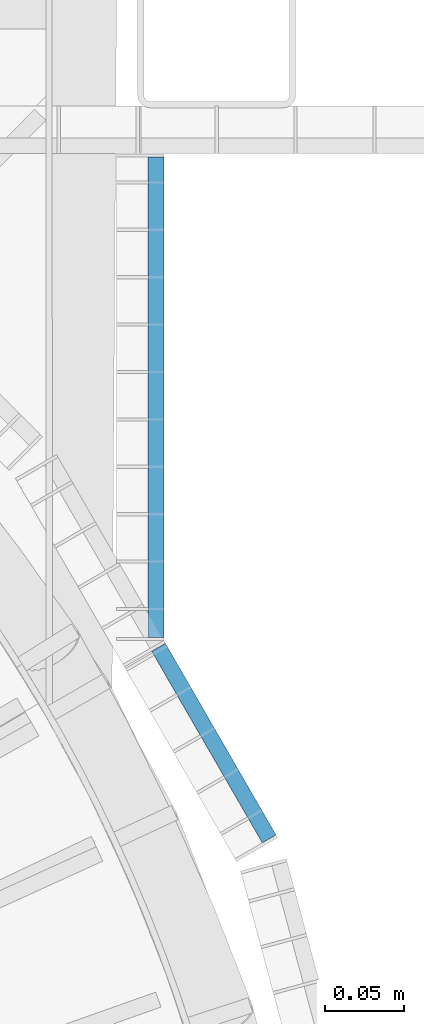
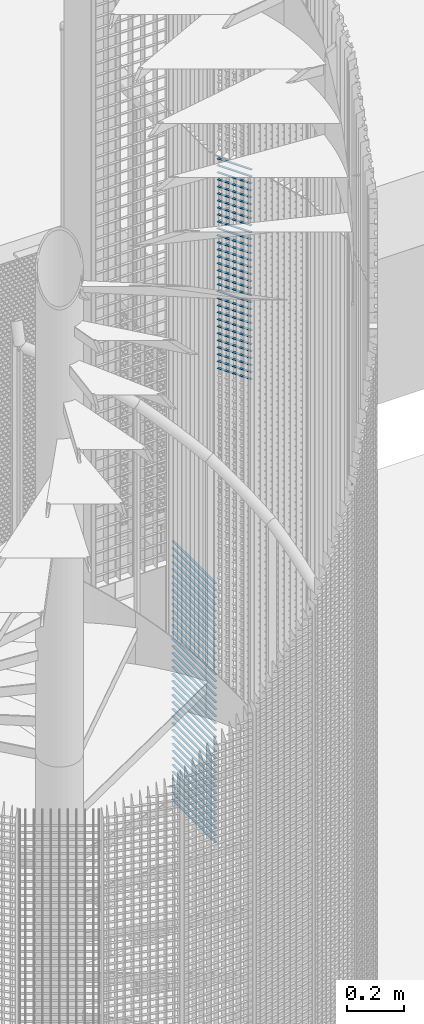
# One storey, part 274 of 1148: 69 beams, 2 elements without a shape of their own.
"""IFC2X3 building model written with IfcOpenShell, lengths in millimetres."""

from ifc_helpers import new_model, si_unit, frame, origin_with_axes, origin_2d_with_axis, place, context, subcontext, project, spatial, rectangle, extrude, material, type_object, element, aggregate, save


model = new_model("IFC2X3")

# Units and contexts
model_context = context("Model", 3, precision=1e-05, world=origin_with_axes())
body_context = subcontext(model_context, "Body", "Model", "MODEL_VIEW")
ifc_project = project(units=[si_unit("LENGTHUNIT", "METRE", prefix="MILLI"), si_unit("AREAUNIT", "SQUARE_METRE"), si_unit("VOLUMEUNIT", "CUBIC_METRE"), si_unit("MASSUNIT", "GRAM", prefix="KILO"), si_unit("TIMEUNIT", "SECOND"), si_unit("PLANEANGLEUNIT", "RADIAN"), si_unit("SOLIDANGLEUNIT", "STERADIAN"), si_unit("THERMODYNAMICTEMPERATUREUNIT", "DEGREE_CELSIUS"), si_unit("LUMINOUSINTENSITYUNIT", "LUMEN")], contexts=[model_context])

# Site, building, storey
site_placement = place(None, origin_with_axes())
site = spatial("IfcSite", under=ifc_project, at=site_placement, Name="Undefined", CompositionType="ELEMENT")
building_placement = place(site_placement, origin_with_axes())
building = spatial("IfcBuilding", under=site, at=building_placement, Name="Undefined", CompositionType="ELEMENT")
storey_placement = place(building_placement, origin_with_axes())
storey = spatial("IfcBuildingStorey", under=building, at=storey_placement, Name="Undefined", CompositionType="ELEMENT", Elevation=0.0)

# Assembly, beams
assembly_1_placement = place(storey_placement, origin_with_axes())
assembly_1 = element("IfcElementAssembly", 1, at=assembly_1_placement, inside=storey, Name="BORDURE", AssemblyPlace="NOTDEFINED", PredefinedType="NOTDEFINED")
ifc_material = material(Name="STEEL/S235JR")
beam_type = type_object("IfcBeamType", Name="PL2*10", PredefinedType="NOTDEFINED")
beam_1_placement = place(assembly_1_placement, frame((961.586915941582, 564.782669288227, 10140.0), z_axis=(1.0, 0.0, 0.0), x_axis=(0.0, 1.0, 0.0)))
beam_1 = element("IfcBeam", 2, at=beam_1_placement, type_object=beam_type, material=ifc_material, Name="ENTRETOISE", context=body_context, shape_type="SweptSolid", body=[
    extrude(rectangle(XDim=2.0, YDim=10.0, at=origin_2d_with_axis()), frame((303.999999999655, 0.0, 0.0), z_axis=(-1.0, 0.0, 0.0), x_axis=(0.0, -1.0, 0.0)), (0.0, 0.0, 1.0), 304.0),
])
beam_2_placement = place(assembly_1_placement, frame((961.586915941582, 564.782669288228, 9720.0), z_axis=(1.0, 0.0, 0.0), x_axis=(0.0, 1.0, 0.0)))
beam_2 = element("IfcBeam", 3, at=beam_2_placement, type_object=beam_type, material=ifc_material, Name="ENTRETOISE", context=body_context, shape_type="SweptSolid", body=[
    extrude(rectangle(XDim=2.0, YDim=10.0, at=origin_2d_with_axis()), frame((303.999999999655, 0.0, 0.0), z_axis=(-1.0, 0.0, 0.0), x_axis=(0.0, -1.0, 0.0)), (0.0, 0.0, 1.0), 304.0),
])
beam_3_placement = place(assembly_1_placement, frame((961.586915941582, 564.782669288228, 9690.0), z_axis=(1.0, 0.0, 0.0), x_axis=(0.0, 1.0, 0.0)))
beam_3 = element("IfcBeam", 4, at=beam_3_placement, type_object=beam_type, material=ifc_material, Name="ENTRETOISE", context=body_context, shape_type="SweptSolid", body=[
    extrude(rectangle(XDim=2.0, YDim=10.0, at=origin_2d_with_axis()), frame((303.999999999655, 0.0, 0.0), z_axis=(-1.0, 0.0, 0.0), x_axis=(0.0, -1.0, 0.0)), (0.0, 0.0, 1.0), 304.0),
])
beam_4_placement = place(assembly_1_placement, frame((961.586915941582, 564.782669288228, 9750.0), z_axis=(1.0, 0.0, 0.0), x_axis=(0.0, 1.0, 0.0)))
beam_4 = element("IfcBeam", 5, at=beam_4_placement, type_object=beam_type, material=ifc_material, Name="ENTRETOISE", context=body_context, shape_type="SweptSolid", body=[
    extrude(rectangle(XDim=2.0, YDim=10.0, at=origin_2d_with_axis()), frame((303.999999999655, 0.0, 0.0), z_axis=(-1.0, 0.0, 0.0), x_axis=(0.0, -1.0, 0.0)), (0.0, 0.0, 1.0), 304.0),
])
beam_5_placement = place(assembly_1_placement, frame((961.586915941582, 564.782669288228, 9660.0), z_axis=(1.0, 0.0, 0.0), x_axis=(0.0, 1.0, 0.0)))
beam_5 = element("IfcBeam", 6, at=beam_5_placement, type_object=beam_type, material=ifc_material, Name="ENTRETOISE", context=body_context, shape_type="SweptSolid", body=[
    extrude(rectangle(XDim=2.0, YDim=10.0, at=origin_2d_with_axis()), frame((303.999999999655, 0.0, 0.0), z_axis=(-1.0, 0.0, 0.0), x_axis=(0.0, -1.0, 0.0)), (0.0, 0.0, 1.0), 304.0),
])
beam_6_placement = place(assembly_1_placement, frame((961.586915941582, 564.782669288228, 9630.0), z_axis=(1.0, 0.0, 0.0), x_axis=(0.0, 1.0, 0.0)))
beam_6 = element("IfcBeam", 7, at=beam_6_placement, type_object=beam_type, material=ifc_material, Name="ENTRETOISE", context=body_context, shape_type="SweptSolid", body=[
    extrude(rectangle(XDim=2.0, YDim=10.0, at=origin_2d_with_axis()), frame((303.999999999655, 0.0, 0.0), z_axis=(-1.0, 0.0, 0.0), x_axis=(0.0, -1.0, 0.0)), (0.0, 0.0, 1.0), 304.0),
])
beam_7_placement = place(assembly_1_placement, frame((961.586915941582, 564.782669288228, 9780.0), z_axis=(1.0, 0.0, 0.0), x_axis=(0.0, 1.0, 0.0)))
beam_7 = element("IfcBeam", 8, at=beam_7_placement, type_object=beam_type, material=ifc_material, Name="ENTRETOISE", context=body_context, shape_type="SweptSolid", body=[
    extrude(rectangle(XDim=2.0, YDim=10.0, at=origin_2d_with_axis()), frame((303.999999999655, 0.0, 0.0), z_axis=(-1.0, 0.0, 0.0), x_axis=(0.0, -1.0, 0.0)), (0.0, 0.0, 1.0), 304.0),
])
beam_8_placement = place(assembly_1_placement, frame((961.586915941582, 564.782669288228, 9600.0), z_axis=(1.0, 0.0, 0.0), x_axis=(0.0, 1.0, 0.0)))
beam_8 = element("IfcBeam", 9, at=beam_8_placement, type_object=beam_type, material=ifc_material, Name="ENTRETOISE", context=body_context, shape_type="SweptSolid", body=[
    extrude(rectangle(XDim=2.0, YDim=10.0, at=origin_2d_with_axis()), frame((303.999999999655, 0.0, 0.0), z_axis=(-1.0, 0.0, 0.0), x_axis=(0.0, -1.0, 0.0)), (0.0, 0.0, 1.0), 304.0),
])
beam_9_placement = place(assembly_1_placement, frame((961.586915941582, 564.782669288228, 9810.0), z_axis=(1.0, 0.0, 0.0), x_axis=(0.0, 1.0, 0.0)))
beam_9 = element("IfcBeam", 10, at=beam_9_placement, type_object=beam_type, material=ifc_material, Name="ENTRETOISE", context=body_context, shape_type="SweptSolid", body=[
    extrude(rectangle(XDim=2.0, YDim=10.0, at=origin_2d_with_axis()), frame((303.999999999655, 0.0, 0.0), z_axis=(-1.0, 0.0, 0.0), x_axis=(0.0, -1.0, 0.0)), (0.0, 0.0, 1.0), 304.0),
])
beam_10_placement = place(assembly_1_placement, frame((961.586915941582, 564.782669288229, 9570.0), z_axis=(1.0, 0.0, 0.0), x_axis=(0.0, 1.0, 0.0)))
beam_10 = element("IfcBeam", 11, at=beam_10_placement, type_object=beam_type, material=ifc_material, Name="ENTRETOISE", context=body_context, shape_type="SweptSolid", body=[
    extrude(rectangle(XDim=2.0, YDim=10.0, at=origin_2d_with_axis()), frame((303.999999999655, 0.0, 0.0), z_axis=(-1.0, 0.0, 0.0), x_axis=(0.0, -1.0, 0.0)), (0.0, 0.0, 1.0), 304.0),
])
beam_11_placement = place(assembly_1_placement, frame((961.586915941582, 564.782669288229, 9540.0), z_axis=(1.0, 0.0, 0.0), x_axis=(0.0, 1.0, 0.0)))
beam_11 = element("IfcBeam", 12, at=beam_11_placement, type_object=beam_type, material=ifc_material, Name="ENTRETOISE", context=body_context, shape_type="SweptSolid", body=[
    extrude(rectangle(XDim=2.0, YDim=10.0, at=origin_2d_with_axis()), frame((303.999999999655, 0.0, 0.0), z_axis=(-1.0, 0.0, 0.0), x_axis=(0.0, -1.0, 0.0)), (0.0, 0.0, 1.0), 304.0),
])
beam_12_placement = place(assembly_1_placement, frame((961.586915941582, 564.782669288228, 9840.0), z_axis=(1.0, 0.0, 0.0), x_axis=(0.0, 1.0, 0.0)))
beam_12 = element("IfcBeam", 13, at=beam_12_placement, type_object=beam_type, material=ifc_material, Name="ENTRETOISE", context=body_context, shape_type="SweptSolid", body=[
    extrude(rectangle(XDim=2.0, YDim=10.0, at=origin_2d_with_axis()), frame((303.999999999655, 0.0, 0.0), z_axis=(-1.0, 0.0, 0.0), x_axis=(0.0, -1.0, 0.0)), (0.0, 0.0, 1.0), 304.0),
])
beam_13_placement = place(assembly_1_placement, frame((961.586915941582, 564.782669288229, 9510.0), z_axis=(1.0, 0.0, 0.0), x_axis=(0.0, 1.0, 0.0)))
beam_13 = element("IfcBeam", 14, at=beam_13_placement, type_object=beam_type, material=ifc_material, Name="ENTRETOISE", context=body_context, shape_type="SweptSolid", body=[
    extrude(rectangle(XDim=2.0, YDim=10.0, at=origin_2d_with_axis()), frame((303.999999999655, 0.0, 0.0), z_axis=(-1.0, 0.0, 0.0), x_axis=(0.0, -1.0, 0.0)), (0.0, 0.0, 1.0), 304.0),
])
beam_14_placement = place(assembly_1_placement, frame((961.586915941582, 564.782669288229, 9480.0), z_axis=(1.0, 0.0, 0.0), x_axis=(0.0, 1.0, 0.0)))
beam_14 = element("IfcBeam", 15, at=beam_14_placement, type_object=beam_type, material=ifc_material, Name="ENTRETOISE", context=body_context, shape_type="SweptSolid", body=[
    extrude(rectangle(XDim=2.0, YDim=10.0, at=origin_2d_with_axis()), frame((303.999999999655, 0.0, 0.0), z_axis=(-1.0, 0.0, 0.0), x_axis=(0.0, -1.0, 0.0)), (0.0, 0.0, 1.0), 304.0),
])
beam_15_placement = place(assembly_1_placement, frame((961.586915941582, 564.782669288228, 9870.0), z_axis=(1.0, 0.0, 0.0), x_axis=(0.0, 1.0, 0.0)))
beam_15 = element("IfcBeam", 16, at=beam_15_placement, type_object=beam_type, material=ifc_material, Name="ENTRETOISE", context=body_context, shape_type="SweptSolid", body=[
    extrude(rectangle(XDim=2.0, YDim=10.0, at=origin_2d_with_axis()), frame((303.999999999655, 0.0, 0.0), z_axis=(-1.0, 0.0, 0.0), x_axis=(0.0, -1.0, 0.0)), (0.0, 0.0, 1.0), 304.0),
])
beam_16_placement = place(assembly_1_placement, frame((961.586915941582, 564.782669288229, 9450.0), z_axis=(1.0, 0.0, 0.0), x_axis=(0.0, 1.0, 0.0)))
beam_16 = element("IfcBeam", 17, at=beam_16_placement, type_object=beam_type, material=ifc_material, Name="ENTRETOISE", context=body_context, shape_type="SweptSolid", body=[
    extrude(rectangle(XDim=2.0, YDim=10.0, at=origin_2d_with_axis()), frame((303.999999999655, 0.0, 0.0), z_axis=(-1.0, 0.0, 0.0), x_axis=(0.0, -1.0, 0.0)), (0.0, 0.0, 1.0), 304.0),
])
beam_17_placement = place(assembly_1_placement, frame((961.586915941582, 564.782669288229, 9420.0), z_axis=(1.0, 0.0, 0.0), x_axis=(0.0, 1.0, 0.0)))
beam_17 = element("IfcBeam", 18, at=beam_17_placement, type_object=beam_type, material=ifc_material, Name="ENTRETOISE", context=body_context, shape_type="SweptSolid", body=[
    extrude(rectangle(XDim=2.0, YDim=10.0, at=origin_2d_with_axis()), frame((303.999999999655, 0.0, 0.0), z_axis=(-1.0, 0.0, 0.0), x_axis=(0.0, -1.0, 0.0)), (0.0, 0.0, 1.0), 304.0),
])
beam_18_placement = place(assembly_1_placement, frame((961.586915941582, 564.782669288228, 9900.0), z_axis=(1.0, 0.0, 0.0), x_axis=(0.0, 1.0, 0.0)))
beam_18 = element("IfcBeam", 19, at=beam_18_placement, type_object=beam_type, material=ifc_material, Name="ENTRETOISE", context=body_context, shape_type="SweptSolid", body=[
    extrude(rectangle(XDim=2.0, YDim=10.0, at=origin_2d_with_axis()), frame((303.999999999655, 0.0, 0.0), z_axis=(-1.0, 0.0, 0.0), x_axis=(0.0, -1.0, 0.0)), (0.0, 0.0, 1.0), 304.0),
])
beam_19_placement = place(assembly_1_placement, frame((961.586915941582, 564.782669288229, 9390.0), z_axis=(1.0, 0.0, 0.0), x_axis=(0.0, 1.0, 0.0)))
beam_19 = element("IfcBeam", 20, at=beam_19_placement, type_object=beam_type, material=ifc_material, Name="ENTRETOISE", context=body_context, shape_type="SweptSolid", body=[
    extrude(rectangle(XDim=2.0, YDim=10.0, at=origin_2d_with_axis()), frame((303.999999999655, 0.0, 0.0), z_axis=(-1.0, 0.0, 0.0), x_axis=(0.0, -1.0, 0.0)), (0.0, 0.0, 1.0), 304.0),
])
beam_20_placement = place(assembly_1_placement, frame((961.586915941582, 564.782669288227, 9930.0), z_axis=(1.0, 0.0, 0.0), x_axis=(0.0, 1.0, 0.0)))
beam_20 = element("IfcBeam", 21, at=beam_20_placement, type_object=beam_type, material=ifc_material, Name="ENTRETOISE", context=body_context, shape_type="SweptSolid", body=[
    extrude(rectangle(XDim=2.0, YDim=10.0, at=origin_2d_with_axis()), frame((303.999999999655, 0.0, 0.0), z_axis=(-1.0, 0.0, 0.0), x_axis=(0.0, -1.0, 0.0)), (0.0, 0.0, 1.0), 304.0),
])
beam_21_placement = place(assembly_1_placement, frame((961.586915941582, 564.782669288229, 9360.0), z_axis=(1.0, 0.0, 0.0), x_axis=(0.0, 1.0, 0.0)))
beam_21 = element("IfcBeam", 22, at=beam_21_placement, type_object=beam_type, material=ifc_material, Name="ENTRETOISE", context=body_context, shape_type="SweptSolid", body=[
    extrude(rectangle(XDim=2.0, YDim=10.0, at=origin_2d_with_axis()), frame((303.999999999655, 0.0, 0.0), z_axis=(-1.0, 0.0, 0.0), x_axis=(0.0, -1.0, 0.0)), (0.0, 0.0, 1.0), 304.0),
])
beam_22_placement = place(assembly_1_placement, frame((961.586915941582, 564.782669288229, 9330.0), z_axis=(1.0, 0.0, 0.0), x_axis=(0.0, 1.0, 0.0)))
beam_22 = element("IfcBeam", 23, at=beam_22_placement, type_object=beam_type, material=ifc_material, Name="ENTRETOISE", context=body_context, shape_type="SweptSolid", body=[
    extrude(rectangle(XDim=2.0, YDim=10.0, at=origin_2d_with_axis()), frame((303.999999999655, 0.0, 0.0), z_axis=(-1.0, 0.0, 0.0), x_axis=(0.0, -1.0, 0.0)), (0.0, 0.0, 1.0), 304.0),
])
beam_23_placement = place(assembly_1_placement, frame((961.586915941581, 564.782669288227, 9960.0), z_axis=(1.0, 0.0, 0.0), x_axis=(0.0, 1.0, 0.0)))
beam_23 = element("IfcBeam", 24, at=beam_23_placement, type_object=beam_type, material=ifc_material, Name="ENTRETOISE", context=body_context, shape_type="SweptSolid", body=[
    extrude(rectangle(XDim=2.0, YDim=10.0, at=origin_2d_with_axis()), frame((303.999999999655, 0.0, 0.0), z_axis=(-1.0, 0.0, 0.0), x_axis=(0.0, -1.0, 0.0)), (0.0, 0.0, 1.0), 304.0),
])
beam_24_placement = place(assembly_1_placement, frame((961.586915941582, 564.782669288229, 9300.0), z_axis=(1.0, 0.0, 0.0), x_axis=(0.0, 1.0, 0.0)))
beam_24 = element("IfcBeam", 25, at=beam_24_placement, type_object=beam_type, material=ifc_material, Name="ENTRETOISE", context=body_context, shape_type="SweptSolid", body=[
    extrude(rectangle(XDim=2.0, YDim=10.0, at=origin_2d_with_axis()), frame((303.999999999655, 0.0, 0.0), z_axis=(-1.0, 0.0, 0.0), x_axis=(0.0, -1.0, 0.0)), (0.0, 0.0, 1.0), 304.0),
])
beam_25_placement = place(assembly_1_placement, frame((961.586915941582, 564.78266928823, 9270.0), z_axis=(1.0, 0.0, 0.0), x_axis=(0.0, 1.0, 0.0)))
beam_25 = element("IfcBeam", 26, at=beam_25_placement, type_object=beam_type, material=ifc_material, Name="ENTRETOISE", context=body_context, shape_type="SweptSolid", body=[
    extrude(rectangle(XDim=2.0, YDim=10.0, at=origin_2d_with_axis()), frame((303.999999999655, 0.0, 0.0), z_axis=(-1.0, 0.0, 0.0), x_axis=(0.0, -1.0, 0.0)), (0.0, 0.0, 1.0), 304.0),
])
beam_26_placement = place(assembly_1_placement, frame((961.586915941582, 564.782669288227, 9990.0), z_axis=(1.0, 0.0, 0.0), x_axis=(0.0, 1.0, 0.0)))
beam_26 = element("IfcBeam", 27, at=beam_26_placement, type_object=beam_type, material=ifc_material, Name="ENTRETOISE", context=body_context, shape_type="SweptSolid", body=[
    extrude(rectangle(XDim=2.0, YDim=10.0, at=origin_2d_with_axis()), frame((303.999999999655, 0.0, 0.0), z_axis=(-1.0, 0.0, 0.0), x_axis=(0.0, -1.0, 0.0)), (0.0, 0.0, 1.0), 304.0),
])
beam_27_placement = place(assembly_1_placement, frame((961.586915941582, 564.78266928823, 9240.0), z_axis=(1.0, 0.0, 0.0), x_axis=(0.0, 1.0, 0.0)))
beam_27 = element("IfcBeam", 28, at=beam_27_placement, type_object=beam_type, material=ifc_material, Name="ENTRETOISE", context=body_context, shape_type="SweptSolid", body=[
    extrude(rectangle(XDim=2.0, YDim=10.0, at=origin_2d_with_axis()), frame((303.999999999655, 0.0, 0.0), z_axis=(-1.0, 0.0, 0.0), x_axis=(0.0, -1.0, 0.0)), (0.0, 0.0, 1.0), 304.0),
])
beam_28_placement = place(assembly_1_placement, frame((961.586915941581, 564.782669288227, 10020.0), z_axis=(1.0, 0.0, 0.0), x_axis=(0.0, 1.0, 0.0)))
beam_28 = element("IfcBeam", 29, at=beam_28_placement, type_object=beam_type, material=ifc_material, Name="ENTRETOISE", context=body_context, shape_type="SweptSolid", body=[
    extrude(rectangle(XDim=2.0, YDim=10.0, at=origin_2d_with_axis()), frame((303.999999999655, 0.0, 0.0), z_axis=(-1.0, 0.0, 0.0), x_axis=(0.0, -1.0, 0.0)), (0.0, 0.0, 1.0), 304.0),
])
beam_29_placement = place(assembly_1_placement, frame((961.586915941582, 564.78266928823, 9210.0), z_axis=(1.0, 0.0, 0.0), x_axis=(0.0, 1.0, 0.0)))
beam_29 = element("IfcBeam", 30, at=beam_29_placement, type_object=beam_type, material=ifc_material, Name="ENTRETOISE", context=body_context, shape_type="SweptSolid", body=[
    extrude(rectangle(XDim=2.0, YDim=10.0, at=origin_2d_with_axis()), frame((303.999999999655, 0.0, 0.0), z_axis=(-1.0, 0.0, 0.0), x_axis=(0.0, -1.0, 0.0)), (0.0, 0.0, 1.0), 304.0),
])
beam_30_placement = place(assembly_1_placement, frame((961.586915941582, 564.78266928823, 9180.0), z_axis=(1.0, 0.0, 0.0), x_axis=(0.0, 1.0, 0.0)))
beam_30 = element("IfcBeam", 31, at=beam_30_placement, type_object=beam_type, material=ifc_material, Name="ENTRETOISE", context=body_context, shape_type="SweptSolid", body=[
    extrude(rectangle(XDim=2.0, YDim=10.0, at=origin_2d_with_axis()), frame((303.999999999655, 0.0, 0.0), z_axis=(-1.0, 0.0, 0.0), x_axis=(0.0, -1.0, 0.0)), (0.0, 0.0, 1.0), 304.0),
])
beam_31_placement = place(assembly_1_placement, frame((961.586915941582, 564.782669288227, 10050.0), z_axis=(1.0, 0.0, 0.0), x_axis=(0.0, 1.0, 0.0)))
beam_31 = element("IfcBeam", 32, at=beam_31_placement, type_object=beam_type, material=ifc_material, Name="ENTRETOISE", context=body_context, shape_type="SweptSolid", body=[
    extrude(rectangle(XDim=2.0, YDim=10.0, at=origin_2d_with_axis()), frame((303.999999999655, 0.0, 0.0), z_axis=(-1.0, 0.0, 0.0), x_axis=(0.0, -1.0, 0.0)), (0.0, 0.0, 1.0), 304.0),
])
beam_32_placement = place(assembly_1_placement, frame((961.586915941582, 564.78266928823, 9150.0), z_axis=(1.0, 0.0, 0.0), x_axis=(0.0, 1.0, 0.0)))
beam_32 = element("IfcBeam", 33, at=beam_32_placement, type_object=beam_type, material=ifc_material, Name="ENTRETOISE", context=body_context, shape_type="SweptSolid", body=[
    extrude(rectangle(XDim=2.0, YDim=10.0, at=origin_2d_with_axis()), frame((303.999999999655, 0.0, 0.0), z_axis=(-1.0, 0.0, 0.0), x_axis=(0.0, -1.0, 0.0)), (0.0, 0.0, 1.0), 304.0),
])
beam_33_placement = place(assembly_1_placement, frame((961.586915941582, 564.78266928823, 9120.0), z_axis=(1.0, 0.0, 0.0), x_axis=(0.0, 1.0, 0.0)))
beam_33 = element("IfcBeam", 34, at=beam_33_placement, type_object=beam_type, material=ifc_material, Name="ENTRETOISE", context=body_context, shape_type="SweptSolid", body=[
    extrude(rectangle(XDim=2.0, YDim=10.0, at=origin_2d_with_axis()), frame((303.999999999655, 0.0, 0.0), z_axis=(-1.0, 0.0, 0.0), x_axis=(0.0, -1.0, 0.0)), (0.0, 0.0, 1.0), 304.0),
])
beam_34_placement = place(assembly_1_placement, frame((961.586915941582, 564.782669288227, 10080.0), z_axis=(1.0, 0.0, 0.0), x_axis=(0.0, 1.0, 0.0)))
beam_34 = element("IfcBeam", 35, at=beam_34_placement, type_object=beam_type, material=ifc_material, Name="ENTRETOISE", context=body_context, shape_type="SweptSolid", body=[
    extrude(rectangle(XDim=2.0, YDim=10.0, at=origin_2d_with_axis()), frame((303.999999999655, 0.0, 0.0), z_axis=(-1.0, 0.0, 0.0), x_axis=(0.0, -1.0, 0.0)), (0.0, 0.0, 1.0), 304.0),
])
beam_35_placement = place(assembly_1_placement, frame((961.586915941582, 564.78266928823, 9090.0), z_axis=(1.0, 0.0, 0.0), x_axis=(0.0, 1.0, 0.0)))
beam_35 = element("IfcBeam", 36, at=beam_35_placement, type_object=beam_type, material=ifc_material, Name="ENTRETOISE", context=body_context, shape_type="SweptSolid", body=[
    extrude(rectangle(XDim=2.0, YDim=10.0, at=origin_2d_with_axis()), frame((303.999999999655, 0.0, 0.0), z_axis=(-1.0, 0.0, 0.0), x_axis=(0.0, -1.0, 0.0)), (0.0, 0.0, 1.0), 304.0),
])
beam_36_placement = place(assembly_1_placement, frame((961.586915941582, 564.78266928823, 9060.0), z_axis=(1.0, 0.0, 0.0), x_axis=(0.0, 1.0, 0.0)))
beam_36 = element("IfcBeam", 37, at=beam_36_placement, type_object=beam_type, material=ifc_material, Name="ENTRETOISE", context=body_context, shape_type="SweptSolid", body=[
    extrude(rectangle(XDim=2.0, YDim=10.0, at=origin_2d_with_axis()), frame((303.999999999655, 0.0, 0.0), z_axis=(-1.0, 0.0, 0.0), x_axis=(0.0, -1.0, 0.0)), (0.0, 0.0, 1.0), 304.0),
])
beam_37_placement = place(assembly_1_placement, frame((961.586915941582, 564.782669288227, 10110.0), z_axis=(1.0, 0.0, 0.0), x_axis=(0.0, 1.0, 0.0)))
beam_37 = element("IfcBeam", 38, at=beam_37_placement, type_object=beam_type, material=ifc_material, Name="ENTRETOISE", context=body_context, shape_type="SweptSolid", body=[
    extrude(rectangle(XDim=2.0, YDim=10.0, at=origin_2d_with_axis()), frame((303.999999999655, 0.0, 0.0), z_axis=(-1.0, 0.0, 0.0), x_axis=(0.0, -1.0, 0.0)), (0.0, 0.0, 1.0), 304.0),
])
beam_38_placement = place(assembly_1_placement, frame((961.586915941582, 564.782669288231, 9030.0), z_axis=(1.0, 0.0, 0.0), x_axis=(0.0, 1.0, 0.0)))
beam_38 = element("IfcBeam", 39, at=beam_38_placement, type_object=beam_type, material=ifc_material, Name="ENTRETOISE", context=body_context, shape_type="SweptSolid", body=[
    extrude(rectangle(XDim=2.0, YDim=10.0, at=origin_2d_with_axis()), frame((303.999999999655, 0.0, 0.0), z_axis=(-1.0, 0.0, 0.0), x_axis=(0.0, -1.0, 0.0)), (0.0, 0.0, 1.0), 304.0),
])
aggregate(assembly_1, [beam_1, beam_2, beam_3, beam_4, beam_5, beam_6, beam_7, beam_8, beam_9, beam_10, beam_11, beam_12, beam_13, beam_14, beam_15, beam_16, beam_17, beam_18, beam_19, beam_20, beam_21, beam_22, beam_23, beam_24, beam_25, beam_26, beam_27, beam_28, beam_29, beam_30, beam_31, beam_32, beam_33, beam_34, beam_35, beam_36, beam_37, beam_38])

assembly_2_placement = place(storey_placement, origin_with_axes())
assembly_2 = element("IfcElementAssembly", 40, at=assembly_2_placement, inside=storey, Name="BORDURE", AssemblyPlace="NOTDEFINED", PredefinedType="NOTDEFINED")
beam_39_placement = place(assembly_2_placement, frame((1033.29994283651, 437.231999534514, 11970.0), z_axis=(0.866030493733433, 0.499991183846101, 0.0), x_axis=(-0.499991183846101, 0.866030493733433, 0.0)))
beam_39 = element("IfcBeam", 41, at=beam_39_placement, type_object=beam_type, material=ifc_material, Name="ENTRETOISE", context=body_context, shape_type="SweptSolid", body=[
    extrude(rectangle(XDim=2.0, YDim=10.0, at=origin_2d_with_axis()), frame((140.102470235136, 0.0, 0.0), z_axis=(-1.0, 0.0, 0.0), x_axis=(0.0, -1.0, 0.0)), (0.0, 0.0, 1.0), 140.1),
])
beam_40_placement = place(assembly_2_placement, frame((1033.29994283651, 437.231999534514, 11940.0), z_axis=(0.866030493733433, 0.499991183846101, 0.0), x_axis=(-0.499991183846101, 0.866030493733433, 0.0)))
beam_40 = element("IfcBeam", 42, at=beam_40_placement, type_object=beam_type, material=ifc_material, Name="ENTRETOISE", context=body_context, shape_type="SweptSolid", body=[
    extrude(rectangle(XDim=2.0, YDim=10.0, at=origin_2d_with_axis()), frame((140.102470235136, 0.0, 0.0), z_axis=(-1.0, 0.0, 0.0), x_axis=(0.0, -1.0, 0.0)), (0.0, 0.0, 1.0), 140.1),
])
beam_41_placement = place(assembly_2_placement, frame((1033.29994283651, 437.231999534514, 11910.0), z_axis=(0.866030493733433, 0.499991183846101, 0.0), x_axis=(-0.499991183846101, 0.866030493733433, 0.0)))
beam_41 = element("IfcBeam", 43, at=beam_41_placement, type_object=beam_type, material=ifc_material, Name="ENTRETOISE", context=body_context, shape_type="SweptSolid", body=[
    extrude(rectangle(XDim=2.0, YDim=10.0, at=origin_2d_with_axis()), frame((140.102470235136, 0.0, 0.0), z_axis=(-1.0, 0.0, 0.0), x_axis=(0.0, -1.0, 0.0)), (0.0, 0.0, 1.0), 140.1),
])
beam_42_placement = place(assembly_2_placement, frame((1033.29994283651, 437.231999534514, 11880.0), z_axis=(0.866030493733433, 0.499991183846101, 0.0), x_axis=(-0.499991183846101, 0.866030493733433, 0.0)))
beam_42 = element("IfcBeam", 44, at=beam_42_placement, type_object=beam_type, material=ifc_material, Name="ENTRETOISE", context=body_context, shape_type="SweptSolid", body=[
    extrude(rectangle(XDim=2.0, YDim=10.0, at=origin_2d_with_axis()), frame((140.102470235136, 0.0, 0.0), z_axis=(-1.0, 0.0, 0.0), x_axis=(0.0, -1.0, 0.0)), (0.0, 0.0, 1.0), 140.1),
])
beam_43_placement = place(assembly_2_placement, frame((1033.29994283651, 437.231999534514, 11850.0), z_axis=(0.866030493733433, 0.499991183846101, 0.0), x_axis=(-0.499991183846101, 0.866030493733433, 0.0)))
beam_43 = element("IfcBeam", 45, at=beam_43_placement, type_object=beam_type, material=ifc_material, Name="ENTRETOISE", context=body_context, shape_type="SweptSolid", body=[
    extrude(rectangle(XDim=2.0, YDim=10.0, at=origin_2d_with_axis()), frame((140.102470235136, 0.0, 0.0), z_axis=(-1.0, 0.0, 0.0), x_axis=(0.0, -1.0, 0.0)), (0.0, 0.0, 1.0), 140.1),
])
beam_44_placement = place(assembly_2_placement, frame((1033.29994283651, 437.231999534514, 11820.0), z_axis=(0.866030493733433, 0.499991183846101, 0.0), x_axis=(-0.499991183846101, 0.866030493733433, 0.0)))
beam_44 = element("IfcBeam", 46, at=beam_44_placement, type_object=beam_type, material=ifc_material, Name="ENTRETOISE", context=body_context, shape_type="SweptSolid", body=[
    extrude(rectangle(XDim=2.0, YDim=10.0, at=origin_2d_with_axis()), frame((140.102470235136, 0.0, 0.0), z_axis=(-1.0, 0.0, 0.0), x_axis=(0.0, -1.0, 0.0)), (0.0, 0.0, 1.0), 140.1),
])
beam_45_placement = place(assembly_2_placement, frame((1033.29994283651, 437.231999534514, 11790.0), z_axis=(0.866030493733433, 0.499991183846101, 0.0), x_axis=(-0.499991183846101, 0.866030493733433, 0.0)))
beam_45 = element("IfcBeam", 47, at=beam_45_placement, type_object=beam_type, material=ifc_material, Name="ENTRETOISE", context=body_context, shape_type="SweptSolid", body=[
    extrude(rectangle(XDim=2.0, YDim=10.0, at=origin_2d_with_axis()), frame((140.102470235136, 0.0, 0.0), z_axis=(-1.0, 0.0, 0.0), x_axis=(0.0, -1.0, 0.0)), (0.0, 0.0, 1.0), 140.1),
])
beam_46_placement = place(assembly_2_placement, frame((1033.29994283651, 437.231999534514, 11760.0), z_axis=(0.866030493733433, 0.499991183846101, 0.0), x_axis=(-0.499991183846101, 0.866030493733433, 0.0)))
beam_46 = element("IfcBeam", 48, at=beam_46_placement, type_object=beam_type, material=ifc_material, Name="ENTRETOISE", context=body_context, shape_type="SweptSolid", body=[
    extrude(rectangle(XDim=2.0, YDim=10.0, at=origin_2d_with_axis()), frame((140.102470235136, 0.0, 0.0), z_axis=(-1.0, 0.0, 0.0), x_axis=(0.0, -1.0, 0.0)), (0.0, 0.0, 1.0), 140.1),
])
beam_47_placement = place(assembly_2_placement, frame((1033.29994283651, 437.231999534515, 11730.0), z_axis=(0.866030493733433, 0.499991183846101, 0.0), x_axis=(-0.499991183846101, 0.866030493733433, 0.0)))
beam_47 = element("IfcBeam", 49, at=beam_47_placement, type_object=beam_type, material=ifc_material, Name="ENTRETOISE", context=body_context, shape_type="SweptSolid", body=[
    extrude(rectangle(XDim=2.0, YDim=10.0, at=origin_2d_with_axis()), frame((140.102470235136, 0.0, 0.0), z_axis=(-1.0, 0.0, 0.0), x_axis=(0.0, -1.0, 0.0)), (0.0, 0.0, 1.0), 140.1),
])
beam_48_placement = place(assembly_2_placement, frame((1033.29994283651, 437.231999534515, 11700.0), z_axis=(0.866030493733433, 0.499991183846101, 0.0), x_axis=(-0.499991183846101, 0.866030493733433, 0.0)))
beam_48 = element("IfcBeam", 50, at=beam_48_placement, type_object=beam_type, material=ifc_material, Name="ENTRETOISE", context=body_context, shape_type="SweptSolid", body=[
    extrude(rectangle(XDim=2.0, YDim=10.0, at=origin_2d_with_axis()), frame((140.102470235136, 0.0, 0.0), z_axis=(-1.0, 0.0, 0.0), x_axis=(0.0, -1.0, 0.0)), (0.0, 0.0, 1.0), 140.1),
])
beam_49_placement = place(assembly_2_placement, frame((1033.29994283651, 437.231999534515, 11670.0), z_axis=(0.866030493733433, 0.499991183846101, 0.0), x_axis=(-0.499991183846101, 0.866030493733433, 0.0)))
beam_49 = element("IfcBeam", 51, at=beam_49_placement, type_object=beam_type, material=ifc_material, Name="ENTRETOISE", context=body_context, shape_type="SweptSolid", body=[
    extrude(rectangle(XDim=2.0, YDim=10.0, at=origin_2d_with_axis()), frame((140.102470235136, 0.0, 0.0), z_axis=(-1.0, 0.0, 0.0), x_axis=(0.0, -1.0, 0.0)), (0.0, 0.0, 1.0), 140.1),
])
beam_50_placement = place(assembly_2_placement, frame((1033.29994283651, 437.231999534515, 11640.0), z_axis=(0.866030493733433, 0.499991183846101, 0.0), x_axis=(-0.499991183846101, 0.866030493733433, 0.0)))
beam_50 = element("IfcBeam", 52, at=beam_50_placement, type_object=beam_type, material=ifc_material, Name="ENTRETOISE", context=body_context, shape_type="SweptSolid", body=[
    extrude(rectangle(XDim=2.0, YDim=10.0, at=origin_2d_with_axis()), frame((140.102470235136, 0.0, 0.0), z_axis=(-1.0, 0.0, 0.0), x_axis=(0.0, -1.0, 0.0)), (0.0, 0.0, 1.0), 140.1),
])
beam_51_placement = place(assembly_2_placement, frame((1033.29994283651, 437.231999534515, 11610.0), z_axis=(0.866030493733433, 0.499991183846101, 0.0), x_axis=(-0.499991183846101, 0.866030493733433, 0.0)))
beam_51 = element("IfcBeam", 53, at=beam_51_placement, type_object=beam_type, material=ifc_material, Name="ENTRETOISE", context=body_context, shape_type="SweptSolid", body=[
    extrude(rectangle(XDim=2.0, YDim=10.0, at=origin_2d_with_axis()), frame((140.102470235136, 0.0, 0.0), z_axis=(-1.0, 0.0, 0.0), x_axis=(0.0, -1.0, 0.0)), (0.0, 0.0, 1.0), 140.1),
])
beam_52_placement = place(assembly_2_placement, frame((1033.29994283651, 437.231999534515, 11580.0), z_axis=(0.866030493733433, 0.499991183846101, 0.0), x_axis=(-0.499991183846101, 0.866030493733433, 0.0)))
beam_52 = element("IfcBeam", 54, at=beam_52_placement, type_object=beam_type, material=ifc_material, Name="ENTRETOISE", context=body_context, shape_type="SweptSolid", body=[
    extrude(rectangle(XDim=2.0, YDim=10.0, at=origin_2d_with_axis()), frame((140.102470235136, 0.0, 0.0), z_axis=(-1.0, 0.0, 0.0), x_axis=(0.0, -1.0, 0.0)), (0.0, 0.0, 1.0), 140.1),
])
beam_53_placement = place(assembly_2_placement, frame((1033.29994283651, 437.231999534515, 11550.0), z_axis=(0.866030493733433, 0.499991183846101, 0.0), x_axis=(-0.499991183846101, 0.866030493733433, 0.0)))
beam_53 = element("IfcBeam", 55, at=beam_53_placement, type_object=beam_type, material=ifc_material, Name="ENTRETOISE", context=body_context, shape_type="SweptSolid", body=[
    extrude(rectangle(XDim=2.0, YDim=10.0, at=origin_2d_with_axis()), frame((140.102470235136, 0.0, 0.0), z_axis=(-1.0, 0.0, 0.0), x_axis=(0.0, -1.0, 0.0)), (0.0, 0.0, 1.0), 140.1),
])
beam_54_placement = place(assembly_2_placement, frame((1033.29994283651, 437.231999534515, 11520.0), z_axis=(0.866030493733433, 0.499991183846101, 0.0), x_axis=(-0.499991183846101, 0.866030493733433, 0.0)))
beam_54 = element("IfcBeam", 56, at=beam_54_placement, type_object=beam_type, material=ifc_material, Name="ENTRETOISE", context=body_context, shape_type="SweptSolid", body=[
    extrude(rectangle(XDim=2.0, YDim=10.0, at=origin_2d_with_axis()), frame((140.102470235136, 0.0, 0.0), z_axis=(-1.0, 0.0, 0.0), x_axis=(0.0, -1.0, 0.0)), (0.0, 0.0, 1.0), 140.1),
])
beam_55_placement = place(assembly_2_placement, frame((1033.29994283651, 437.231999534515, 11490.0), z_axis=(0.866030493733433, 0.499991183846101, 0.0), x_axis=(-0.499991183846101, 0.866030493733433, 0.0)))
beam_55 = element("IfcBeam", 57, at=beam_55_placement, type_object=beam_type, material=ifc_material, Name="ENTRETOISE", context=body_context, shape_type="SweptSolid", body=[
    extrude(rectangle(XDim=2.0, YDim=10.0, at=origin_2d_with_axis()), frame((140.102470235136, 0.0, 0.0), z_axis=(-1.0, 0.0, 0.0), x_axis=(0.0, -1.0, 0.0)), (0.0, 0.0, 1.0), 140.1),
])
beam_56_placement = place(assembly_2_placement, frame((1033.29994283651, 437.231999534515, 11460.0), z_axis=(0.866030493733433, 0.499991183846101, 0.0), x_axis=(-0.499991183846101, 0.866030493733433, 0.0)))
beam_56 = element("IfcBeam", 58, at=beam_56_placement, type_object=beam_type, material=ifc_material, Name="ENTRETOISE", context=body_context, shape_type="SweptSolid", body=[
    extrude(rectangle(XDim=2.0, YDim=10.0, at=origin_2d_with_axis()), frame((140.102470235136, 0.0, 0.0), z_axis=(-1.0, 0.0, 0.0), x_axis=(0.0, -1.0, 0.0)), (0.0, 0.0, 1.0), 140.1),
])
beam_57_placement = place(assembly_2_placement, frame((1033.29994283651, 437.231999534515, 11430.0), z_axis=(0.866030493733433, 0.499991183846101, 0.0), x_axis=(-0.499991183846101, 0.866030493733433, 0.0)))
beam_57 = element("IfcBeam", 59, at=beam_57_placement, type_object=beam_type, material=ifc_material, Name="ENTRETOISE", context=body_context, shape_type="SweptSolid", body=[
    extrude(rectangle(XDim=2.0, YDim=10.0, at=origin_2d_with_axis()), frame((140.102470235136, 0.0, 0.0), z_axis=(-1.0, 0.0, 0.0), x_axis=(0.0, -1.0, 0.0)), (0.0, 0.0, 1.0), 140.1),
])
beam_58_placement = place(assembly_2_placement, frame((1033.29994283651, 437.231999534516, 11400.0), z_axis=(0.866030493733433, 0.499991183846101, 0.0), x_axis=(-0.499991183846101, 0.866030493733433, 0.0)))
beam_58 = element("IfcBeam", 60, at=beam_58_placement, type_object=beam_type, material=ifc_material, Name="ENTRETOISE", context=body_context, shape_type="SweptSolid", body=[
    extrude(rectangle(XDim=2.0, YDim=10.0, at=origin_2d_with_axis()), frame((140.102470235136, 0.0, 0.0), z_axis=(-1.0, 0.0, 0.0), x_axis=(0.0, -1.0, 0.0)), (0.0, 0.0, 1.0), 140.1),
])
beam_59_placement = place(assembly_2_placement, frame((1033.29994283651, 437.231999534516, 11370.0), z_axis=(0.866030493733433, 0.499991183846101, 0.0), x_axis=(-0.499991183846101, 0.866030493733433, 0.0)))
beam_59 = element("IfcBeam", 61, at=beam_59_placement, type_object=beam_type, material=ifc_material, Name="ENTRETOISE", context=body_context, shape_type="SweptSolid", body=[
    extrude(rectangle(XDim=2.0, YDim=10.0, at=origin_2d_with_axis()), frame((140.102470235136, 0.0, 0.0), z_axis=(-1.0, 0.0, 0.0), x_axis=(0.0, -1.0, 0.0)), (0.0, 0.0, 1.0), 140.1),
])
beam_60_placement = place(assembly_2_placement, frame((1033.29994283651, 437.231999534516, 11340.0), z_axis=(0.866030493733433, 0.499991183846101, 0.0), x_axis=(-0.499991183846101, 0.866030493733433, 0.0)))
beam_60 = element("IfcBeam", 62, at=beam_60_placement, type_object=beam_type, material=ifc_material, Name="ENTRETOISE", context=body_context, shape_type="SweptSolid", body=[
    extrude(rectangle(XDim=2.0, YDim=10.0, at=origin_2d_with_axis()), frame((140.102470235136, 0.0, 0.0), z_axis=(-1.0, 0.0, 0.0), x_axis=(0.0, -1.0, 0.0)), (0.0, 0.0, 1.0), 140.1),
])
beam_61_placement = place(assembly_2_placement, frame((1033.29994283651, 437.231999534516, 11310.0), z_axis=(0.866030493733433, 0.499991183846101, 0.0), x_axis=(-0.499991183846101, 0.866030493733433, 0.0)))
beam_61 = element("IfcBeam", 63, at=beam_61_placement, type_object=beam_type, material=ifc_material, Name="ENTRETOISE", context=body_context, shape_type="SweptSolid", body=[
    extrude(rectangle(XDim=2.0, YDim=10.0, at=origin_2d_with_axis()), frame((140.102470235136, 0.0, 0.0), z_axis=(-1.0, 0.0, 0.0), x_axis=(0.0, -1.0, 0.0)), (0.0, 0.0, 1.0), 140.1),
])
beam_62_placement = place(assembly_2_placement, frame((1033.29994283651, 437.231999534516, 11280.0), z_axis=(0.866030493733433, 0.499991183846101, 0.0), x_axis=(-0.499991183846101, 0.866030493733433, 0.0)))
beam_62 = element("IfcBeam", 64, at=beam_62_placement, type_object=beam_type, material=ifc_material, Name="ENTRETOISE", context=body_context, shape_type="SweptSolid", body=[
    extrude(rectangle(XDim=2.0, YDim=10.0, at=origin_2d_with_axis()), frame((140.102470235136, 0.0, 0.0), z_axis=(-1.0, 0.0, 0.0), x_axis=(0.0, -1.0, 0.0)), (0.0, 0.0, 1.0), 140.1),
])
beam_63_placement = place(assembly_2_placement, frame((1033.29994283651, 437.231999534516, 11250.0), z_axis=(0.866030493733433, 0.499991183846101, 0.0), x_axis=(-0.499991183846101, 0.866030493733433, 0.0)))
beam_63 = element("IfcBeam", 65, at=beam_63_placement, type_object=beam_type, material=ifc_material, Name="ENTRETOISE", context=body_context, shape_type="SweptSolid", body=[
    extrude(rectangle(XDim=2.0, YDim=10.0, at=origin_2d_with_axis()), frame((140.102470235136, 0.0, 0.0), z_axis=(-1.0, 0.0, 0.0), x_axis=(0.0, -1.0, 0.0)), (0.0, 0.0, 1.0), 140.1),
])
beam_64_placement = place(assembly_2_placement, frame((1033.29994283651, 437.231999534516, 11220.0), z_axis=(0.866030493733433, 0.499991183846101, 0.0), x_axis=(-0.499991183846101, 0.866030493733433, 0.0)))
beam_64 = element("IfcBeam", 66, at=beam_64_placement, type_object=beam_type, material=ifc_material, Name="ENTRETOISE", context=body_context, shape_type="SweptSolid", body=[
    extrude(rectangle(XDim=2.0, YDim=10.0, at=origin_2d_with_axis()), frame((140.102470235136, 0.0, 0.0), z_axis=(-1.0, 0.0, 0.0), x_axis=(0.0, -1.0, 0.0)), (0.0, 0.0, 1.0), 140.1),
])
beam_65_placement = place(assembly_2_placement, frame((1033.29994283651, 437.231999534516, 11190.0), z_axis=(0.866030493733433, 0.499991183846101, 0.0), x_axis=(-0.499991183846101, 0.866030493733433, 0.0)))
beam_65 = element("IfcBeam", 67, at=beam_65_placement, type_object=beam_type, material=ifc_material, Name="ENTRETOISE", context=body_context, shape_type="SweptSolid", body=[
    extrude(rectangle(XDim=2.0, YDim=10.0, at=origin_2d_with_axis()), frame((140.102470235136, 0.0, 0.0), z_axis=(-1.0, 0.0, 0.0), x_axis=(0.0, -1.0, 0.0)), (0.0, 0.0, 1.0), 140.1),
])
beam_66_placement = place(assembly_2_placement, frame((1033.29994283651, 437.231999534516, 11160.0), z_axis=(0.866030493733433, 0.499991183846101, 0.0), x_axis=(-0.499991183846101, 0.866030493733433, 0.0)))
beam_66 = element("IfcBeam", 68, at=beam_66_placement, type_object=beam_type, material=ifc_material, Name="ENTRETOISE", context=body_context, shape_type="SweptSolid", body=[
    extrude(rectangle(XDim=2.0, YDim=10.0, at=origin_2d_with_axis()), frame((140.102470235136, 0.0, 0.0), z_axis=(-1.0, 0.0, 0.0), x_axis=(0.0, -1.0, 0.0)), (0.0, 0.0, 1.0), 140.1),
])
beam_67_placement = place(assembly_2_placement, frame((1033.29994283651, 437.231999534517, 11130.0), z_axis=(0.866030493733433, 0.499991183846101, 0.0), x_axis=(-0.499991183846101, 0.866030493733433, 0.0)))
beam_67 = element("IfcBeam", 69, at=beam_67_placement, type_object=beam_type, material=ifc_material, Name="ENTRETOISE", context=body_context, shape_type="SweptSolid", body=[
    extrude(rectangle(XDim=2.0, YDim=10.0, at=origin_2d_with_axis()), frame((140.102470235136, 0.0, 0.0), z_axis=(-1.0, 0.0, 0.0), x_axis=(0.0, -1.0, 0.0)), (0.0, 0.0, 1.0), 140.1),
])
beam_68_placement = place(assembly_2_placement, frame((1033.29994283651, 437.231999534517, 11100.0), z_axis=(0.866030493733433, 0.499991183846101, 0.0), x_axis=(-0.499991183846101, 0.866030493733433, 0.0)))
beam_68 = element("IfcBeam", 70, at=beam_68_placement, type_object=beam_type, material=ifc_material, Name="ENTRETOISE", context=body_context, shape_type="SweptSolid", body=[
    extrude(rectangle(XDim=2.0, YDim=10.0, at=origin_2d_with_axis()), frame((140.102470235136, 0.0, 0.0), z_axis=(-1.0, 0.0, 0.0), x_axis=(0.0, -1.0, 0.0)), (0.0, 0.0, 1.0), 140.1),
])
beam_69_placement = place(assembly_2_placement, frame((1033.29994283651, 437.231999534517, 11070.0), z_axis=(0.866030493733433, 0.499991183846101, 0.0), x_axis=(-0.499991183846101, 0.866030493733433, 0.0)))
beam_69 = element("IfcBeam", 71, at=beam_69_placement, type_object=beam_type, material=ifc_material, Name="ENTRETOISE", context=body_context, shape_type="SweptSolid", body=[
    extrude(rectangle(XDim=2.0, YDim=10.0, at=origin_2d_with_axis()), frame((140.102470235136, 0.0, 0.0), z_axis=(-1.0, 0.0, 0.0), x_axis=(0.0, -1.0, 0.0)), (0.0, 0.0, 1.0), 140.1),
])
aggregate(assembly_2, [beam_39, beam_40, beam_41, beam_42, beam_43, beam_44, beam_45, beam_46, beam_47, beam_48, beam_49, beam_50, beam_51, beam_52, beam_53, beam_54, beam_55, beam_56, beam_57, beam_58, beam_59, beam_60, beam_61, beam_62, beam_63, beam_64, beam_65, beam_66, beam_67, beam_68, beam_69])

save(model, "model.ifc")
